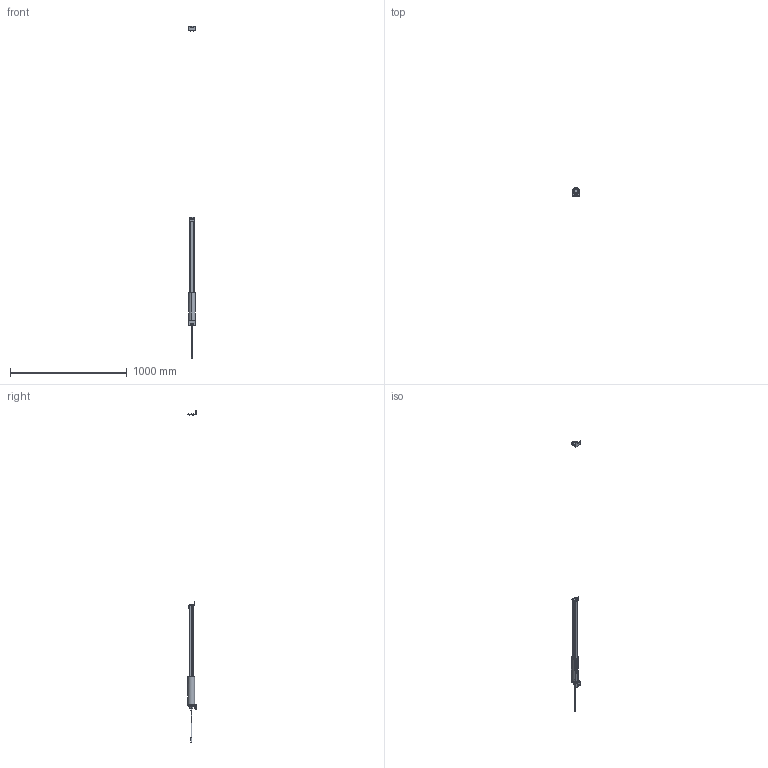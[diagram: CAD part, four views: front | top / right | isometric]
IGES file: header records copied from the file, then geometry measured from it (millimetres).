
Global section: file name: C:\ACADFILES\MG_PYLONS\CUSTOMER_FILES\MG-32-PYLON_3D_L.igs; native system: AutoCAD-18.2s (LMS Tech) (Microsoft Windows NT Version 6.1 (x86)); preprocessor: Autodesk IGES Translator Mechanical Desktop 2011 (Feb 18 2011) from Autodesk, Inc.; date: 20140328.134017; units: inch
Bounding box: 57.29 x 69.85 x 2845.17 mm (x, y, z)
Surface area: 486907.7 mm2 (no closed solid volume)
Topology: 0 solids, 0 shells, 1800 faces, 9329 edges, 9504 vertices
Faces by surface type: bspline 1800
